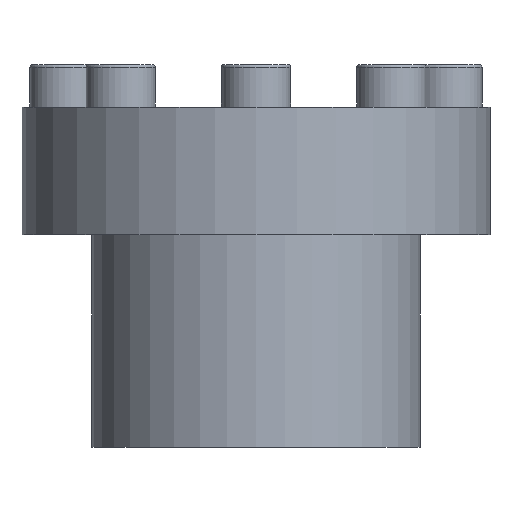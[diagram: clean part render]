
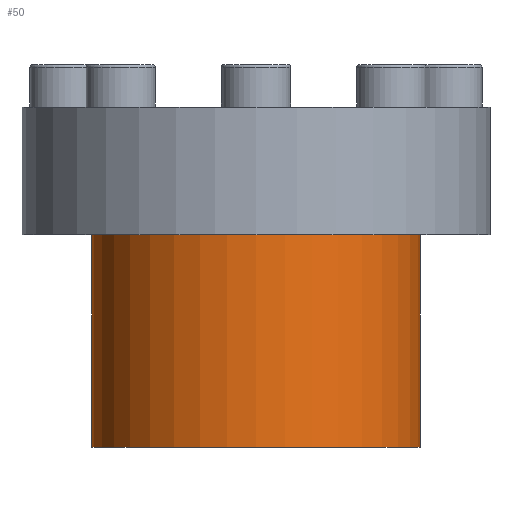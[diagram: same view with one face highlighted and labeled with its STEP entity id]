
A CAD part, front view. The second image highlights one B-rep face of the part: STEP entity #50.
In plain terms, the highlighted cylindrical face has radius 30.9 mm (diameter 61.8 mm), a partial arc.
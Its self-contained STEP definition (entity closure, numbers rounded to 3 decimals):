
#50 = ADVANCED_FACE ( 'NONE', ( #2004 ), #519, .T. ) ;
#96 = AXIS2_PLACEMENT_3D ( 'NONE', #1079, #2229, #2026 ) ;
#133 = VERTEX_POINT ( 'NONE', #1062 ) ;
#145 = CARTESIAN_POINT ( 'NONE',  ( -30.9, 0., -24. ) ) ;
#207 = AXIS2_PLACEMENT_3D ( 'NONE', #229, #945, #2836 ) ;
#218 = CARTESIAN_POINT ( 'NONE',  ( 0., 0., -24. ) ) ;
#229 = CARTESIAN_POINT ( 'NONE',  ( 0., 0., 0. ) ) ;
#326 = VECTOR ( 'NONE', #2754, 1000. ) ;
#380 = VECTOR ( 'NONE', #1165, 1000. ) ;
#475 = AXIS2_PLACEMENT_3D ( 'NONE', #218, #502, #2641 ) ;
#502 = DIRECTION ( 'NONE',  ( 0., 0., 1. ) ) ;
#519 = CYLINDRICAL_SURFACE ( 'NONE', #207, 30.9 ) ;
#738 = CARTESIAN_POINT ( 'NONE',  ( 30.9, 0., -24. ) ) ;
#867 = EDGE_CURVE ( 'NONE', #1850, #1345, #884, .T. ) ;
#869 = ORIENTED_EDGE ( 'NONE', *, *, #2368, .T. ) ;
#882 = EDGE_CURVE ( 'NONE', #1345, #1142, #1669, .T. ) ;
#884 = LINE ( 'NONE', #1111, #326 ) ;
#945 = DIRECTION ( 'NONE',  ( 0., 0., 1. ) ) ;
#1062 = CARTESIAN_POINT ( 'NONE',  ( 30.9, 0., -64. ) ) ;
#1079 = CARTESIAN_POINT ( 'NONE',  ( 0., 0., -64. ) ) ;
#1094 = EDGE_LOOP ( 'NONE', ( #1336, #869, #1507, #1744 ) ) ;
#1111 = CARTESIAN_POINT ( 'NONE',  ( -30.9, 0., 0. ) ) ;
#1142 = VERTEX_POINT ( 'NONE', #738 ) ;
#1165 = DIRECTION ( 'NONE',  ( 0., 0., 1. ) ) ;
#1336 = ORIENTED_EDGE ( 'NONE', *, *, #867, .F. ) ;
#1345 = VERTEX_POINT ( 'NONE', #145 ) ;
#1507 = ORIENTED_EDGE ( 'NONE', *, *, #2166, .T. ) ;
#1669 = CIRCLE ( 'NONE', #475, 30.9 ) ;
#1679 = CARTESIAN_POINT ( 'NONE',  ( -30.9, 0., -64. ) ) ;
#1744 = ORIENTED_EDGE ( 'NONE', *, *, #882, .F. ) ;
#1757 = CIRCLE ( 'NONE', #96, 30.9 ) ;
#1850 = VERTEX_POINT ( 'NONE', #1679 ) ;
#2004 = FACE_OUTER_BOUND ( 'NONE', #1094, .T. ) ;
#2026 = DIRECTION ( 'NONE',  ( 1., 0., 0. ) ) ;
#2166 = EDGE_CURVE ( 'NONE', #133, #1142, #2884, .T. ) ;
#2229 = DIRECTION ( 'NONE',  ( 0., 0., 1. ) ) ;
#2368 = EDGE_CURVE ( 'NONE', #1850, #133, #1757, .T. ) ;
#2565 = CARTESIAN_POINT ( 'NONE',  ( 30.9, 0., 0. ) ) ;
#2641 = DIRECTION ( 'NONE',  ( 1., 0., 0. ) ) ;
#2754 = DIRECTION ( 'NONE',  ( 0., 0., 1. ) ) ;
#2836 = DIRECTION ( 'NONE',  ( 1., 0., 0. ) ) ;
#2884 = LINE ( 'NONE', #2565, #380 ) ;
